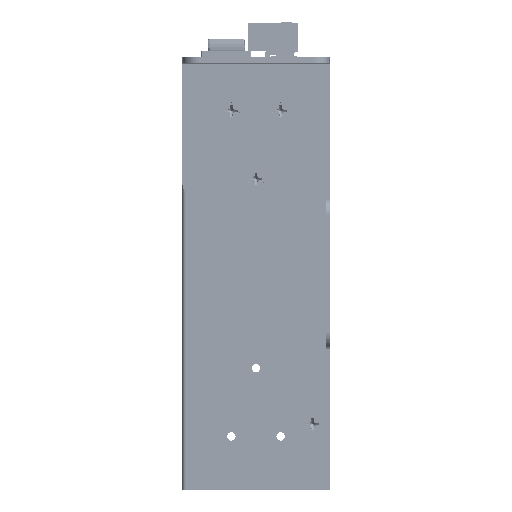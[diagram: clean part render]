
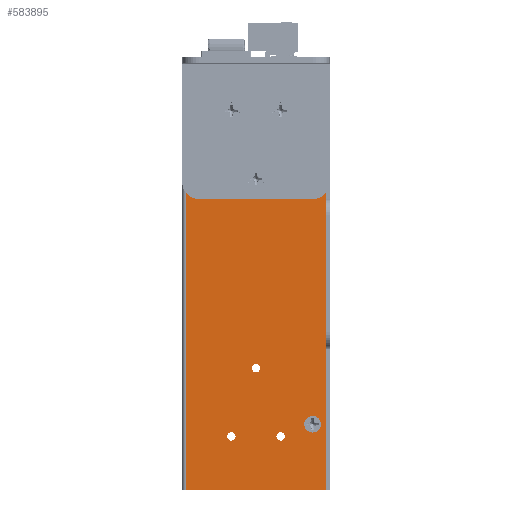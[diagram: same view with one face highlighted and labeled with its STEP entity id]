
A CAD part, left-side view. The second image highlights one B-rep face of the part: STEP entity #583895.
In plain terms, the highlighted planar face has unit normal (-1, 0, 0).
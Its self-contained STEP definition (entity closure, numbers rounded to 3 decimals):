
#11113=FACE_BOUND('',#54247,.T.);
#11114=FACE_BOUND('',#54248,.T.);
#11115=FACE_BOUND('',#54249,.T.);
#11116=FACE_BOUND('',#54250,.T.);
#11117=FACE_BOUND('',#54251,.T.);
#11118=FACE_BOUND('',#54252,.T.);
#11119=FACE_BOUND('',#54253,.T.);
#11120=FACE_BOUND('',#54254,.T.);
#13645=CIRCLE('',#615598,1.5);
#13646=CIRCLE('',#615599,1.5);
#14087=CIRCLE('',#617081,1.5);
#14088=CIRCLE('',#617082,1.5);
#14089=CIRCLE('',#617083,1.5);
#14090=CIRCLE('',#617084,1.5);
#14091=CIRCLE('',#617085,1.265);
#14092=CIRCLE('',#617086,1.265);
#14093=CIRCLE('',#617087,1.265);
#14094=CIRCLE('',#617088,2.5);
#14095=CIRCLE('',#617089,2.5);
#14096=CIRCLE('',#617090,2.5);
#14097=CIRCLE('',#617091,2.5);
#23744=FACE_OUTER_BOUND('',#54246,.T.);
#54246=EDGE_LOOP('',(#397874,#397875,#397876,#397877));
#54247=EDGE_LOOP('',(#397878,#397879));
#54248=EDGE_LOOP('',(#397880,#397881));
#54249=EDGE_LOOP('',(#397882,#397883));
#54250=EDGE_LOOP('',(#397884));
#54251=EDGE_LOOP('',(#397885));
#54252=EDGE_LOOP('',(#397886));
#54253=EDGE_LOOP('',(#397887,#397888));
#54254=EDGE_LOOP('',(#397889,#397890));
#91177=LINE('',#835760,#166823);
#91178=LINE('',#835762,#166824);
#91179=LINE('',#835764,#166825);
#91180=LINE('',#835765,#166826);
#166823=VECTOR('',#670113,10.);
#166824=VECTOR('',#670114,10.);
#166825=VECTOR('',#670115,10.);
#166826=VECTOR('',#670116,0.365);
#239555=VERTEX_POINT('',#826869);
#239556=VERTEX_POINT('',#826871);
#239692=VERTEX_POINT('',#828684);
#239693=VERTEX_POINT('',#828685);
#241786=VERTEX_POINT('',#835758);
#241787=VERTEX_POINT('',#835759);
#241788=VERTEX_POINT('',#835761);
#241789=VERTEX_POINT('',#835763);
#241790=VERTEX_POINT('',#835766);
#241791=VERTEX_POINT('',#835767);
#241792=VERTEX_POINT('',#835770);
#241793=VERTEX_POINT('',#835771);
#241794=VERTEX_POINT('',#835774);
#241795=VERTEX_POINT('',#835776);
#241796=VERTEX_POINT('',#835778);
#241797=VERTEX_POINT('',#835780);
#241798=VERTEX_POINT('',#835781);
#299025=EDGE_CURVE('',#239692,#239693,#13645,.T.);
#299027=EDGE_CURVE('',#239693,#239692,#13646,.T.);
#302119=EDGE_CURVE('',#241786,#241787,#91177,.T.);
#302120=EDGE_CURVE('',#241787,#241788,#91178,.T.);
#302121=EDGE_CURVE('',#241788,#241789,#91179,.T.);
#302122=EDGE_CURVE('',#241789,#241786,#91180,.T.);
#302123=EDGE_CURVE('',#241790,#241791,#14087,.T.);
#302124=EDGE_CURVE('',#241791,#241790,#14088,.T.);
#302125=EDGE_CURVE('',#241792,#241793,#14089,.T.);
#302126=EDGE_CURVE('',#241793,#241792,#14090,.T.);
#302127=EDGE_CURVE('',#241794,#241794,#14091,.T.);
#302128=EDGE_CURVE('',#241795,#241795,#14092,.T.);
#302129=EDGE_CURVE('',#241796,#241796,#14093,.T.);
#302130=EDGE_CURVE('',#241797,#241798,#14094,.T.);
#302131=EDGE_CURVE('',#241798,#241797,#14095,.T.);
#302132=EDGE_CURVE('',#239555,#239556,#14096,.T.);
#302133=EDGE_CURVE('',#239556,#239555,#14097,.T.);
#397874=ORIENTED_EDGE('',*,*,#302119,.T.);
#397875=ORIENTED_EDGE('',*,*,#302120,.T.);
#397876=ORIENTED_EDGE('',*,*,#302121,.T.);
#397877=ORIENTED_EDGE('',*,*,#302122,.T.);
#397878=ORIENTED_EDGE('',*,*,#299027,.T.);
#397879=ORIENTED_EDGE('',*,*,#299025,.T.);
#397880=ORIENTED_EDGE('',*,*,#302123,.F.);
#397881=ORIENTED_EDGE('',*,*,#302124,.F.);
#397882=ORIENTED_EDGE('',*,*,#302125,.F.);
#397883=ORIENTED_EDGE('',*,*,#302126,.F.);
#397884=ORIENTED_EDGE('',*,*,#302127,.T.);
#397885=ORIENTED_EDGE('',*,*,#302128,.T.);
#397886=ORIENTED_EDGE('',*,*,#302129,.T.);
#397887=ORIENTED_EDGE('',*,*,#302130,.F.);
#397888=ORIENTED_EDGE('',*,*,#302131,.F.);
#397889=ORIENTED_EDGE('',*,*,#302132,.T.);
#397890=ORIENTED_EDGE('',*,*,#302133,.T.);
#558943=PLANE('',#617080);
#583895=ADVANCED_FACE('',(#23744,#11113,#11114,#11115,#11116,#11117,#11118,
#11119,#11120),#558943,.T.);
#615598=AXIS2_PLACEMENT_3D('',#828686,#664651,#664652);
#615599=AXIS2_PLACEMENT_3D('',#828688,#664654,#664655);
#617080=AXIS2_PLACEMENT_3D('',#835757,#670111,#670112);
#617081=AXIS2_PLACEMENT_3D('',#835768,#670117,#670118);
#617082=AXIS2_PLACEMENT_3D('',#835769,#670119,#670120);
#617083=AXIS2_PLACEMENT_3D('',#835772,#670121,#670122);
#617084=AXIS2_PLACEMENT_3D('',#835773,#670123,#670124);
#617085=AXIS2_PLACEMENT_3D('',#835775,#670125,#670126);
#617086=AXIS2_PLACEMENT_3D('',#835777,#670127,#670128);
#617087=AXIS2_PLACEMENT_3D('',#835779,#670129,#670130);
#617088=AXIS2_PLACEMENT_3D('',#835782,#670131,#670132);
#617089=AXIS2_PLACEMENT_3D('',#835783,#670133,#670134);
#617090=AXIS2_PLACEMENT_3D('',#835784,#670135,#670136);
#617091=AXIS2_PLACEMENT_3D('',#835785,#670137,#670138);
#664651=DIRECTION('center_axis',(1.,0.,0.));
#664652=DIRECTION('ref_axis',(0.,0.,
-1.));
#664654=DIRECTION('center_axis',(1.,0.,0.));
#664655=DIRECTION('ref_axis',(0.,0.,
-1.));
#670111=DIRECTION('center_axis',(-1.,0.,0.));
#670112=DIRECTION('ref_axis',(0.,0.,
1.));
#670113=DIRECTION('',(0.,0.,1.));
#670114=DIRECTION('',(0.,1.,0.));
#670115=DIRECTION('',(0.,0.,-1.));
#670116=DIRECTION('',(0.,-1.,0.));
#670117=DIRECTION('center_axis',(-1.,0.,0.));
#670118=DIRECTION('ref_axis',(0.,0.,
-1.));
#670119=DIRECTION('center_axis',(-1.,0.,0.));
#670120=DIRECTION('ref_axis',(0.,0.,
-1.));
#670121=DIRECTION('center_axis',(-1.,0.,0.));
#670122=DIRECTION('ref_axis',(0.,0.,
-1.));
#670123=DIRECTION('center_axis',(-1.,0.,0.));
#670124=DIRECTION('ref_axis',(0.,0.,
-1.));
#670125=DIRECTION('center_axis',(1.,0.,0.));
#670126=DIRECTION('ref_axis',(0.,1.,0.));
#670127=DIRECTION('center_axis',(1.,0.,0.));
#670128=DIRECTION('ref_axis',(0.,1.,0.));
#670129=DIRECTION('center_axis',(1.,0.,0.));
#670130=DIRECTION('ref_axis',(0.,1.,0.));
#670131=DIRECTION('center_axis',(-1.,0.,0.));
#670132=DIRECTION('ref_axis',(0.,0.,
1.));
#670133=DIRECTION('center_axis',(-1.,0.,0.));
#670134=DIRECTION('ref_axis',(0.,0.,
1.));
#670135=DIRECTION('center_axis',(1.,0.,0.));
#670136=DIRECTION('ref_axis',(0.,1.,0.));
#670137=DIRECTION('center_axis',(1.,0.,0.));
#670138=DIRECTION('ref_axis',(0.,1.,0.));
#826869=CARTESIAN_POINT('',(-6.,-4.02,-109.71));
#826871=CARTESIAN_POINT('',(-6.,-6.52,-107.21));
#828684=CARTESIAN_POINT('',(-6.,12.975,-35.06));
#828685=CARTESIAN_POINT('',(-6.,12.975,-32.06));
#828686=CARTESIAN_POINT('Origin',(-6.,12.975,-33.56));
#828688=CARTESIAN_POINT('Origin',(-6.,12.975,-33.56));
#835757=CARTESIAN_POINT('Origin',(-6.,12.757,-61.96));
#835758=CARTESIAN_POINT('',(-6.,-8.16,-126.96));
#835759=CARTESIAN_POINT('',(-6.,-8.16,3.04));
#835760=CARTESIAN_POINT('',(-6.,-8.16,-94.46));
#835761=CARTESIAN_POINT('',(-6.,34.11,3.04));
#835762=CARTESIAN_POINT('',(-6.,34.11,3.04));
#835763=CARTESIAN_POINT('',(-6.,34.11,-126.96));
#835764=CARTESIAN_POINT('',(-6.,34.11,-61.96));
#835765=CARTESIAN_POINT('',(-6.,35.257,-126.96));
#835766=CARTESIAN_POINT('',(-6.,20.37,-14.56));
#835767=CARTESIAN_POINT('',(-6.,20.37,-11.56));
#835768=CARTESIAN_POINT('Origin',(-6.,20.37,-13.06));
#835769=CARTESIAN_POINT('Origin',(-6.,20.37,-13.06));
#835770=CARTESIAN_POINT('',(-6.,5.58,-14.56));
#835771=CARTESIAN_POINT('',(-6.,5.58,-11.56));
#835772=CARTESIAN_POINT('Origin',(-6.,5.58,-13.06));
#835773=CARTESIAN_POINT('Origin',(-6.,5.58,-13.06));
#835774=CARTESIAN_POINT('',(-6.,19.106,-110.86));
#835775=CARTESIAN_POINT('Origin',(-6.,20.37,-110.86));
#835776=CARTESIAN_POINT('',(-6.,11.711,-90.36));
#835777=CARTESIAN_POINT('Origin',(-6.,12.975,-90.36));
#835778=CARTESIAN_POINT('',(-6.,4.316,-110.86));
#835779=CARTESIAN_POINT('Origin',(-6.,5.58,-110.86));
#835780=CARTESIAN_POINT('',(-6.,-6.52,-16.71));
#835781=CARTESIAN_POINT('',(-6.,-4.02,-19.21));
#835782=CARTESIAN_POINT('Origin',(-6.,-4.02,-16.71));
#835783=CARTESIAN_POINT('Origin',(-6.,-4.02,-16.71));
#835784=CARTESIAN_POINT('Origin',(-6.,-4.02,-107.21));
#835785=CARTESIAN_POINT('Origin',(-6.,-4.02,-107.21));
